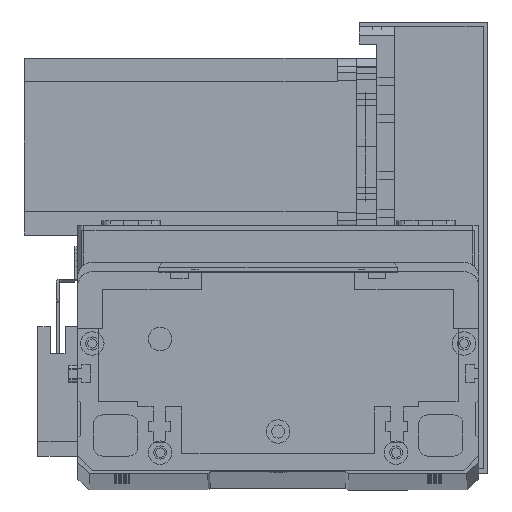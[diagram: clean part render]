
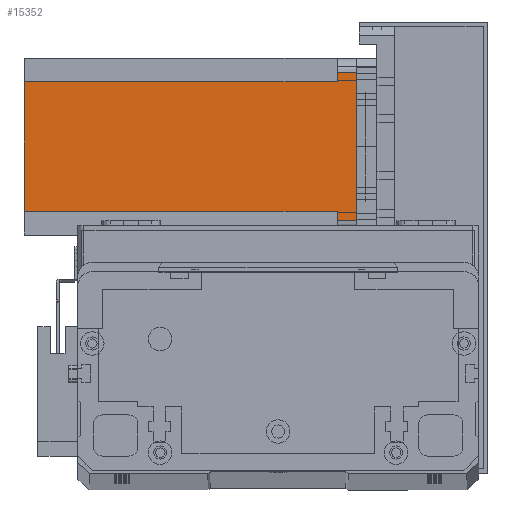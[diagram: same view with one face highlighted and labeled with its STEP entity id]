
A CAD part, top view. The second image highlights one B-rep face of the part: STEP entity #15352.
In plain terms, the highlighted planar face has unit normal (0, 0, 1) as drawn and (0, 1, 0) by its records, which use the part's own axes.
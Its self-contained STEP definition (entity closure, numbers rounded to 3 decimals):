
#218 = LINE ( 'NONE', #14675, #26249 ) ;
#327 = DIRECTION ( 'NONE',  ( 0., 0., 1. ) ) ;
#1651 = VECTOR ( 'NONE', #3940, 1000. ) ;
#1825 = EDGE_CURVE ( 'NONE', #31302, #27828, #11894, .T. ) ;
#1840 = CARTESIAN_POINT ( 'NONE',  ( 8., 60., -6.5 ) ) ;
#2078 = VECTOR ( 'NONE', #19889, 1000. ) ;
#2140 = DIRECTION ( 'NONE',  ( -1., 0., 0. ) ) ;
#2178 = CARTESIAN_POINT ( 'NONE',  ( 0., 60., -112.5 ) ) ;
#2257 = EDGE_CURVE ( 'NONE', #8825, #31302, #8389, .T. ) ;
#2707 = CARTESIAN_POINT ( 'NONE',  ( 55., 60., 0. ) ) ;
#2760 = DIRECTION ( 'NONE',  ( 0., 0., -1. ) ) ;
#2819 = CARTESIAN_POINT ( 'NONE',  ( 55., 60., -112.5 ) ) ;
#2948 = ORIENTED_EDGE ( 'NONE', *, *, #17572, .F. ) ;
#3178 = DIRECTION ( 'NONE',  ( -1., 0., 0. ) ) ;
#3242 = CARTESIAN_POINT ( 'NONE',  ( 0., 60., 0. ) ) ;
#3277 = CARTESIAN_POINT ( 'NONE',  ( 52., 60., -6.5 ) ) ;
#3369 = VECTOR ( 'NONE', #2140, 1000. ) ;
#3695 = EDGE_CURVE ( 'NONE', #8825, #6038, #218, .T. ) ;
#3940 = DIRECTION ( 'NONE',  ( -1., 0., 0. ) ) ;
#4139 = EDGE_CURVE ( 'NONE', #14622, #6038, #23694, .T. ) ;
#4375 = EDGE_CURVE ( 'NONE', #14622, #17581, #4555, .T. ) ;
#4555 = LINE ( 'NONE', #19400, #16201 ) ;
#4884 = ORIENTED_EDGE ( 'NONE', *, *, #6305, .T. ) ;
#5856 = EDGE_CURVE ( 'NONE', #17581, #24080, #28710, .T. ) ;
#6038 = VERTEX_POINT ( 'NONE', #12708 ) ;
#6305 = EDGE_CURVE ( 'NONE', #17634, #24080, #27183, .T. ) ;
#7457 = ORIENTED_EDGE ( 'NONE', *, *, #5856, .F. ) ;
#8389 = LINE ( 'NONE', #1840, #1651 ) ;
#8825 = VERTEX_POINT ( 'NONE', #11047 ) ;
#10442 = ORIENTED_EDGE ( 'NONE', *, *, #4375, .F. ) ;
#10896 = CARTESIAN_POINT ( 'NONE',  ( 5., 60., -112.5 ) ) ;
#11047 = CARTESIAN_POINT ( 'NONE',  ( 8., 60., -6.5 ) ) ;
#11894 = LINE ( 'NONE', #10896, #17560 ) ;
#12708 = CARTESIAN_POINT ( 'NONE',  ( 8., 60., -112.5 ) ) ;
#12724 = ORIENTED_EDGE ( 'NONE', *, *, #4139, .T. ) ;
#13970 = LINE ( 'NONE', #3242, #15497 ) ;
#14012 = EDGE_LOOP ( 'NONE', ( #2948, #4884, #7457, #10442, #12724, #15103, #16946, #19142 ) ) ;
#14562 = DIRECTION ( 'NONE',  ( 0., 0., -1. ) ) ;
#14622 = VERTEX_POINT ( 'NONE', #25358 ) ;
#14675 = CARTESIAN_POINT ( 'NONE',  ( 8., 60., -112.5 ) ) ;
#15103 = ORIENTED_EDGE ( 'NONE', *, *, #3695, .F. ) ;
#15352 = ADVANCED_FACE ( 'NONE', ( #22051 ), #28231, .T. ) ;
#15497 = VECTOR ( 'NONE', #3178, 1000. ) ;
#16201 = VECTOR ( 'NONE', #17798, 1000. ) ;
#16946 = ORIENTED_EDGE ( 'NONE', *, *, #2257, .T. ) ;
#17560 = VECTOR ( 'NONE', #327, 1000. ) ;
#17572 = EDGE_CURVE ( 'NONE', #17634, #27828, #13970, .T. ) ;
#17581 = VERTEX_POINT ( 'NONE', #3277 ) ;
#17631 = CARTESIAN_POINT ( 'NONE',  ( 55., 60., -6.5 ) ) ;
#17634 = VERTEX_POINT ( 'NONE', #2707 ) ;
#17798 = DIRECTION ( 'NONE',  ( 0., 0., 1. ) ) ;
#19142 = ORIENTED_EDGE ( 'NONE', *, *, #1825, .T. ) ;
#19400 = CARTESIAN_POINT ( 'NONE',  ( 52., 60., -112.5 ) ) ;
#19760 = CARTESIAN_POINT ( 'NONE',  ( 52., 60., -6.5 ) ) ;
#19889 = DIRECTION ( 'NONE',  ( 1., 0., 0. ) ) ;
#22051 = FACE_OUTER_BOUND ( 'NONE', #14012, .T. ) ;
#23694 = LINE ( 'NONE', #2178, #3369 ) ;
#24080 = VERTEX_POINT ( 'NONE', #17631 ) ;
#25358 = CARTESIAN_POINT ( 'NONE',  ( 52., 60., -112.5 ) ) ;
#25699 = CARTESIAN_POINT ( 'NONE',  ( 5., 60., -6.5 ) ) ;
#26249 = VECTOR ( 'NONE', #14562, 1000. ) ;
#26590 = AXIS2_PLACEMENT_3D ( 'NONE', #28741, #28236, #28326 ) ;
#27183 = LINE ( 'NONE', #2819, #27939 ) ;
#27828 = VERTEX_POINT ( 'NONE', #28301 ) ;
#27939 = VECTOR ( 'NONE', #2760, 1000. ) ;
#28231 = PLANE ( 'NONE',  #26590 ) ;
#28236 = DIRECTION ( 'NONE',  ( 0., 1., 0. ) ) ;
#28301 = CARTESIAN_POINT ( 'NONE',  ( 5., 60., 0. ) ) ;
#28326 = DIRECTION ( 'NONE',  ( 0., 0., 1. ) ) ;
#28710 = LINE ( 'NONE', #19760, #2078 ) ;
#28741 = CARTESIAN_POINT ( 'NONE',  ( 0., 60., -112.5 ) ) ;
#31302 = VERTEX_POINT ( 'NONE', #25699 ) ;
